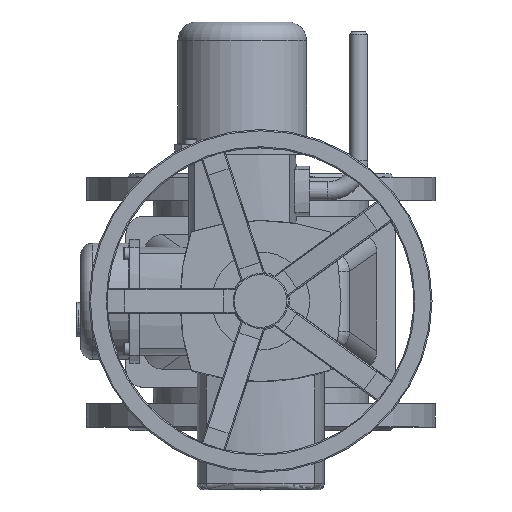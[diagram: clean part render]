
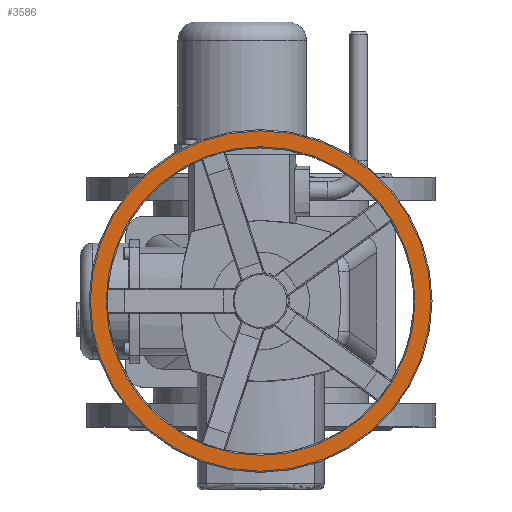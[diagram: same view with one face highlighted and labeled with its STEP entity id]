
A CAD part, top view. The second image highlights one B-rep face of the part: STEP entity #3586.
In plain terms, the highlighted planar face has unit normal (0, 0, 1).
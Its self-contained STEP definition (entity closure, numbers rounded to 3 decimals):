
#3586=ADVANCED_FACE('',(#8040,#8042),#8044,.F.);
#8040=FACE_BOUND('',#8041,.T.);
#8041=EDGE_LOOP('',(#9902));
#8042=FACE_BOUND('',#8043,.T.);
#8043=EDGE_LOOP('',(#9903));
#8044=PLANE('',#8045);
#8045=AXIS2_PLACEMENT_3D('',#8046,#8047,#8048);
#8046=CARTESIAN_POINT('',(0.,0.,571.));
#8047=DIRECTION('',(0.,0.,-1.));
#8048=DIRECTION('',(0.,1.,0.));
#9902=ORIENTED_EDGE('',*,*,#10820,.F.);
#9903=ORIENTED_EDGE('',*,*,#10795,.T.);
#10795=EDGE_CURVE('',#12298,#12298,#12299,.T.);
#10820=EDGE_CURVE('',#12326,#12326,#12327,.T.);
#12298=VERTEX_POINT('',#20073);
#12299=CIRCLE('',#20074,126.);
#12326=VERTEX_POINT('',#20484);
#12327=CIRCLE('',#20485,139.);
#20073=CARTESIAN_POINT('',(0.,126.,571.));
#20074=AXIS2_PLACEMENT_3D('',#20075,#20076,#20077);
#20075=CARTESIAN_POINT('',(0.,0.,571.));
#20076=DIRECTION('',(0.,0.,-1.));
#20077=DIRECTION('',(0.,1.,0.));
#20484=CARTESIAN_POINT('',(0.,139.,571.));
#20485=AXIS2_PLACEMENT_3D('',#20486,#20487,#20488);
#20486=CARTESIAN_POINT('',(0.,0.,571.));
#20487=DIRECTION('',(0.,0.,-1.));
#20488=DIRECTION('',(0.,1.,0.));
